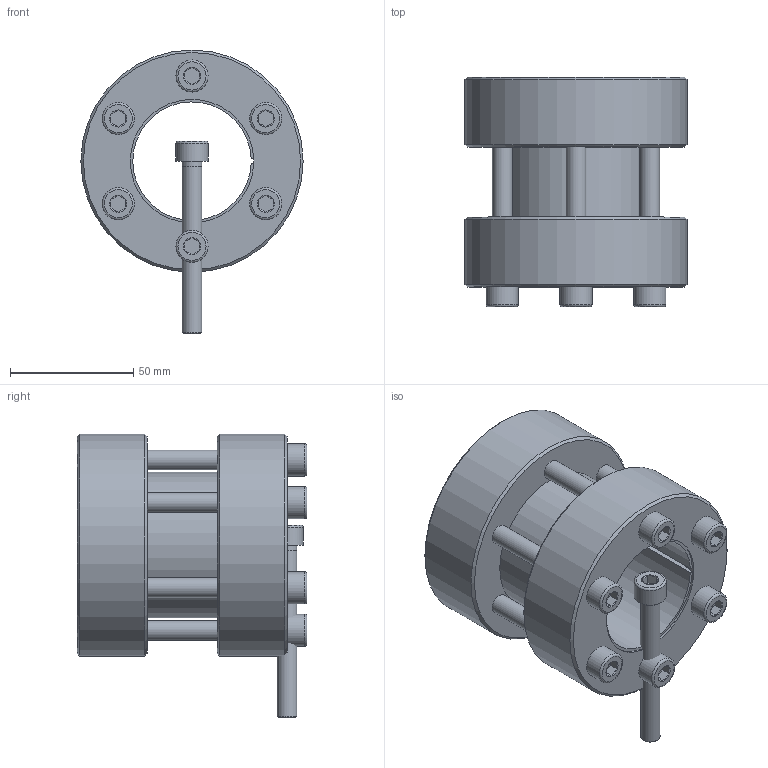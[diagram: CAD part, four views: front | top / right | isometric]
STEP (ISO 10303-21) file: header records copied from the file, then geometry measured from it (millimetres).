
FILE_DESCRIPTION( ( 'Unknown' ), '1' );
FILE_NAME( 'C:/Dokumente und Einstellungen/Sven/Desktop/homepage/cad - homepage/KBS95/KBS 95 - 48 x 90.stp', 'Unknown', ( 'Unknown' ), ( 'Unknown' ), 'XStep 1.0', 'Unknown', ' ' );
FILE_SCHEMA( ( 'automotive_design' ) );
Length unit declared in the file: millimetre
Products named in the file (3): Assem1; KBS 95 - 48 x 90; ISO EN DIN 4762 M8x70
Bounding box: 90 x 93 x 115 mm (x, y, z)
Volume: 562100.6 mm3; surface area: 132522.6 mm2
Topology: 9 solids, 9 shells, 239 faces, 499 edges, 306 vertices
Faces by surface type: plane 104, cone 61, cylinder 60, torus 14
Full cylindrical faces by diameter (mm): 7 x7, 8 x38, 13 x7, 90 x4
Entity records: 1850 total; most frequent: CARTESIAN_POINT 317, DIRECTION 280, ORIENTED_EDGE 206, AXIS2_PLACEMENT_3D 122, EDGE_LOOP 114, EDGE_CURVE 103, VERTEX_POINT 79, FACE_OUTER_BOUND 77
